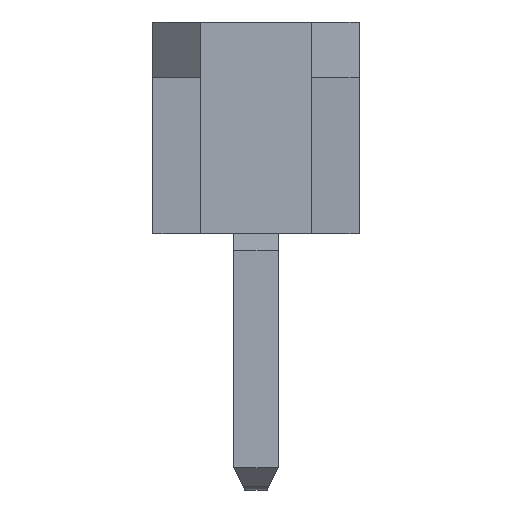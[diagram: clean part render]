
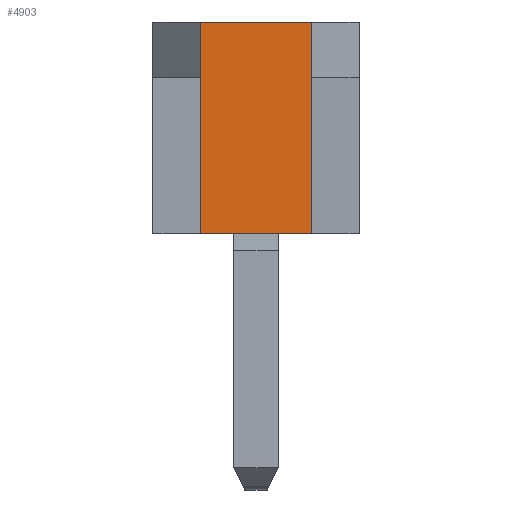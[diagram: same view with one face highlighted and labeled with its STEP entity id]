
A CAD part, left-side view. The second image highlights one B-rep face of the part: STEP entity #4903.
In plain terms, the highlighted planar face has unit normal (-1, 0, 0).
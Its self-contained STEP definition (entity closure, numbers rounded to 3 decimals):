
#142 = DIRECTION ( 'NONE',  ( 0., 0., -1. ) ) ;
#330 = CARTESIAN_POINT ( 'NONE',  ( 0., 0.85, 8.4 ) ) ;
#706 = CARTESIAN_POINT ( 'NONE',  ( 0., 0.85, 8.4 ) ) ;
#784 = CARTESIAN_POINT ( 'NONE',  ( 0., 0.85, 4.6 ) ) ;
#1442 = DIRECTION ( 'NONE',  ( 0., 0., -1. ) ) ;
#1744 = CARTESIAN_POINT ( 'NONE',  ( 0., 2.85, 8.4 ) ) ;
#1887 = EDGE_CURVE ( 'NONE', #7078, #6928, #4058, .T. ) ;
#1921 = VECTOR ( 'NONE', #7868, 1000. ) ;
#2717 = LINE ( 'NONE', #784, #1921 ) ;
#2789 = CARTESIAN_POINT ( 'NONE',  ( 0., 0.85, 8.4 ) ) ;
#2824 = EDGE_CURVE ( 'NONE', #4783, #7078, #3335, .T. ) ;
#3205 = FACE_OUTER_BOUND ( 'NONE', #6701, .T. ) ;
#3267 = CARTESIAN_POINT ( 'NONE',  ( 0., 2.85, 4.6 ) ) ;
#3292 = EDGE_CURVE ( 'NONE', #4783, #6123, #4967, .T. ) ;
#3335 = LINE ( 'NONE', #2789, #6581 ) ;
#3383 = ORIENTED_EDGE ( 'NONE', *, *, #1887, .F. ) ;
#4058 = LINE ( 'NONE', #706, #5056 ) ;
#4155 = VECTOR ( 'NONE', #7622, 1000. ) ;
#4524 = PLANE ( 'NONE',  #7138 ) ;
#4541 = DIRECTION ( 'NONE',  ( 0., -1., 0. ) ) ;
#4644 = DIRECTION ( 'NONE',  ( 1., 0., 0. ) ) ;
#4689 = CARTESIAN_POINT ( 'NONE',  ( 0., 0.85, 8.4 ) ) ;
#4783 = VERTEX_POINT ( 'NONE', #1744 ) ;
#4903 = ADVANCED_FACE ( 'NONE', ( #3205 ), #4524, .F. ) ;
#4967 = LINE ( 'NONE', #5049, #4155 ) ;
#5049 = CARTESIAN_POINT ( 'NONE',  ( 0., 2.85, 8.4 ) ) ;
#5056 = VECTOR ( 'NONE', #142, 1000. ) ;
#6123 = VERTEX_POINT ( 'NONE', #3267 ) ;
#6175 = ORIENTED_EDGE ( 'NONE', *, *, #3292, .T. ) ;
#6304 = ORIENTED_EDGE ( 'NONE', *, *, #6846, .T. ) ;
#6552 = ORIENTED_EDGE ( 'NONE', *, *, #2824, .F. ) ;
#6581 = VECTOR ( 'NONE', #4541, 1000. ) ;
#6701 = EDGE_LOOP ( 'NONE', ( #6304, #3383, #6552, #6175 ) ) ;
#6846 = EDGE_CURVE ( 'NONE', #6123, #6928, #2717, .T. ) ;
#6928 = VERTEX_POINT ( 'NONE', #7412 ) ;
#7078 = VERTEX_POINT ( 'NONE', #330 ) ;
#7138 = AXIS2_PLACEMENT_3D ( 'NONE', #4689, #4644, #1442 ) ;
#7412 = CARTESIAN_POINT ( 'NONE',  ( 0., 0.85, 4.6 ) ) ;
#7622 = DIRECTION ( 'NONE',  ( 0., 0., -1. ) ) ;
#7868 = DIRECTION ( 'NONE',  ( 0., -1., 0. ) ) ;
